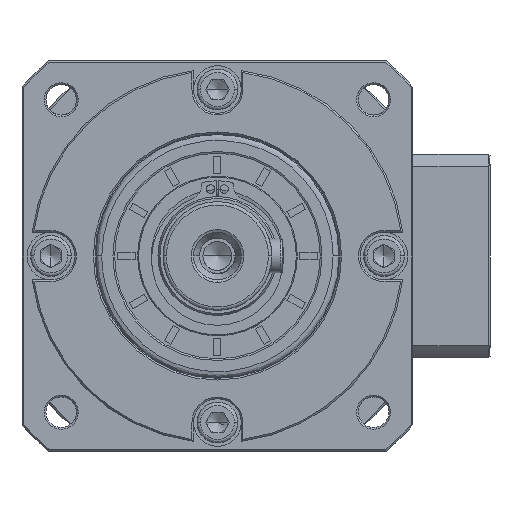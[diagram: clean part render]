
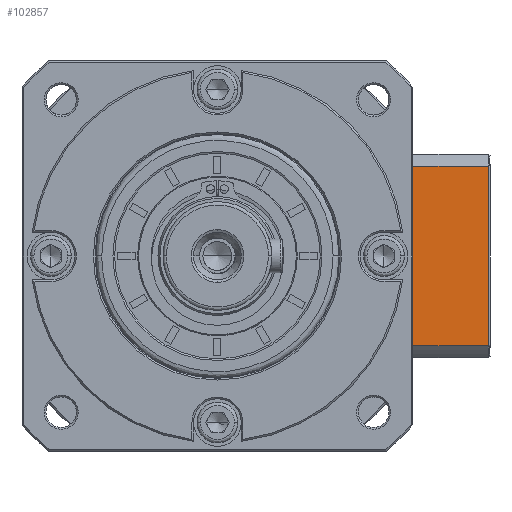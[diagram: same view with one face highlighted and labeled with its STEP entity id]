
A CAD part, left-side view. The second image highlights one B-rep face of the part: STEP entity #102857.
In plain terms, the highlighted planar face has unit normal (-1, 0, 0).
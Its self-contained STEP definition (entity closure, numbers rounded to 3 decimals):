
#1512 = VECTOR ( 'NONE', #52366, 1000. ) ;
#2609 = LINE ( 'NONE', #44714, #179870 ) ;
#4047 = VERTEX_POINT ( 'NONE', #157052 ) ;
#8370 = DIRECTION ( 'NONE',  ( 0., 0., 1. ) ) ;
#8853 = VERTEX_POINT ( 'NONE', #162191 ) ;
#11908 = DIRECTION ( 'NONE',  ( 0., 0., -1. ) ) ;
#12967 = ORIENTED_EDGE ( 'NONE', *, *, #32591, .T. ) ;
#14867 = CARTESIAN_POINT ( 'NONE',  ( -91.773, -37.872, -26.65 ) ) ;
#18048 = CARTESIAN_POINT ( 'NONE',  ( -91.773, -32.872, -71.135 ) ) ;
#18661 = CARTESIAN_POINT ( 'NONE',  ( -91.773, -34.422, -74.017 ) ) ;
#19874 = VERTEX_POINT ( 'NONE', #90321 ) ;
#19951 = B_SPLINE_CURVE_WITH_KNOTS ( 'NONE', 3,
 ( #18048, #45615, #18661, #116615, #32713, #130675 ),
 .UNSPECIFIED., .F., .F.,
 ( 4, 2, 4 ),
 ( 0.1, 0.104, 0.109 ),
 .UNSPECIFIED. ) ;
#32591 = EDGE_CURVE ( 'NONE', #164567, #84697, #142636, .T. ) ;
#32713 = CARTESIAN_POINT ( 'NONE',  ( -91.773, -36.97, -78.202 ) ) ;
#36461 = CARTESIAN_POINT ( 'NONE',  ( -91.773, -60.072, -83.108 ) ) ;
#38206 = CARTESIAN_POINT ( 'NONE',  ( -91.773, -32.872, -35.08 ) ) ;
#44657 = EDGE_CURVE ( 'NONE', #164567, #171529, #75862, .T. ) ;
#44682 = LINE ( 'NONE', #115902, #151982 ) ;
#44714 = CARTESIAN_POINT ( 'NONE',  ( -91.773, -32.872, -71.135 ) ) ;
#45370 = CARTESIAN_POINT ( 'NONE',  ( -91.773, -34.423, -32.197 ) ) ;
#45615 = CARTESIAN_POINT ( 'NONE',  ( -91.773, -33.622, -72.592 ) ) ;
#48722 = AXIS2_PLACEMENT_3D ( 'NONE', #56737, #154551, #70767 ) ;
#52366 = DIRECTION ( 'NONE',  ( 0., -1., 0. ) ) ;
#56737 = CARTESIAN_POINT ( 'NONE',  ( -91.773, -60.572, -83.108 ) ) ;
#56964 = B_SPLINE_CURVE_WITH_KNOTS ( 'NONE', 3,
 ( #128614, #115143, #129216, #45370, #143263, #59522 ),
 .UNSPECIFIED., .F., .F.,
 ( 4, 2, 4 ),
 ( 0.052, 0.057, 0.062 ),
 .UNSPECIFIED. ) ;
#59522 = CARTESIAN_POINT ( 'NONE',  ( -91.773, -32.872, -35.08 ) ) ;
#61584 = ORIENTED_EDGE ( 'NONE', *, *, #135806, .F. ) ;
#67411 = ORIENTED_EDGE ( 'NONE', *, *, #164384, .F. ) ;
#70767 = DIRECTION ( 'NONE',  ( 0., 1., 0. ) ) ;
#73750 = VERTEX_POINT ( 'NONE', #14867 ) ;
#75862 = LINE ( 'NONE', #38206, #1512 ) ;
#77379 = ORIENTED_EDGE ( 'NONE', *, *, #44657, .F. ) ;
#78718 = ORIENTED_EDGE ( 'NONE', *, *, #171150, .T. ) ;
#84697 = VERTEX_POINT ( 'NONE', #120718 ) ;
#90321 = CARTESIAN_POINT ( 'NONE',  ( -91.773, -37.872, -79.565 ) ) ;
#92823 = EDGE_CURVE ( 'NONE', #73750, #4047, #173426, .T. ) ;
#96740 = EDGE_CURVE ( 'NONE', #73750, #171529, #56964, .T. ) ;
#97126 = ORIENTED_EDGE ( 'NONE', *, *, #92823, .F. ) ;
#99383 = DIRECTION ( 'NONE',  ( 0., -1., 0. ) ) ;
#102857 = ADVANCED_FACE ( 'NONE', ( #135690 ), #168020, .F. ) ;
#109828 = CARTESIAN_POINT ( 'NONE',  ( -91.773, -18.372, -83.108 ) ) ;
#110836 = VERTEX_POINT ( 'NONE', #165791 ) ;
#115143 = CARTESIAN_POINT ( 'NONE',  ( -91.773, -36.972, -28.01 ) ) ;
#115902 = CARTESIAN_POINT ( 'NONE',  ( -91.773, -32.872, -79.565 ) ) ;
#116615 = CARTESIAN_POINT ( 'NONE',  ( -91.773, -36.096, -76.823 ) ) ;
#120718 = CARTESIAN_POINT ( 'NONE',  ( -91.773, -18.372, -71.135 ) ) ;
#128561 = DIRECTION ( 'NONE',  ( 0., 1., 0. ) ) ;
#128614 = CARTESIAN_POINT ( 'NONE',  ( -91.773, -37.872, -26.65 ) ) ;
#129216 = CARTESIAN_POINT ( 'NONE',  ( -91.773, -36.099, -29.389 ) ) ;
#129985 = DIRECTION ( 'NONE',  ( 0., 1., 0. ) ) ;
#130675 = CARTESIAN_POINT ( 'NONE',  ( -91.773, -37.872, -79.565 ) ) ;
#135690 = FACE_OUTER_BOUND ( 'NONE', #142191, .T. ) ;
#135806 = EDGE_CURVE ( 'NONE', #8853, #19874, #44682, .T. ) ;
#142132 = CARTESIAN_POINT ( 'NONE',  ( -91.773, -32.872, -35.08 ) ) ;
#142191 = EDGE_LOOP ( 'NONE', ( #61584, #162680, #97126, #161769, #77379, #12967, #67411, #78718 ) ) ;
#142636 = LINE ( 'NONE', #109828, #179836 ) ;
#143263 = CARTESIAN_POINT ( 'NONE',  ( -91.773, -33.62, -33.628 ) ) ;
#149876 = CARTESIAN_POINT ( 'NONE',  ( -91.773, -18.372, -35.08 ) ) ;
#151982 = VECTOR ( 'NONE', #129985, 1000. ) ;
#154551 = DIRECTION ( 'NONE',  ( 1., 0., 0. ) ) ;
#154988 = CARTESIAN_POINT ( 'NONE',  ( -91.773, -32.872, -26.65 ) ) ;
#157052 = CARTESIAN_POINT ( 'NONE',  ( -91.773, -60.072, -26.65 ) ) ;
#161081 = EDGE_CURVE ( 'NONE', #8853, #4047, #176736, .T. ) ;
#161769 = ORIENTED_EDGE ( 'NONE', *, *, #96740, .T. ) ;
#162191 = CARTESIAN_POINT ( 'NONE',  ( -91.773, -60.072, -79.565 ) ) ;
#162680 = ORIENTED_EDGE ( 'NONE', *, *, #161081, .T. ) ;
#164384 = EDGE_CURVE ( 'NONE', #110836, #84697, #2609, .T. ) ;
#164567 = VERTEX_POINT ( 'NONE', #149876 ) ;
#165791 = CARTESIAN_POINT ( 'NONE',  ( -91.773, -32.872, -71.135 ) ) ;
#168020 = PLANE ( 'NONE',  #48722 ) ;
#169058 = VECTOR ( 'NONE', #99383, 1000. ) ;
#171150 = EDGE_CURVE ( 'NONE', #110836, #19874, #19951, .T. ) ;
#171529 = VERTEX_POINT ( 'NONE', #142132 ) ;
#172367 = VECTOR ( 'NONE', #8370, 1000. ) ;
#173426 = LINE ( 'NONE', #154988, #169058 ) ;
#176736 = LINE ( 'NONE', #36461, #172367 ) ;
#179836 = VECTOR ( 'NONE', #11908, 1000. ) ;
#179870 = VECTOR ( 'NONE', #128561, 1000. ) ;
